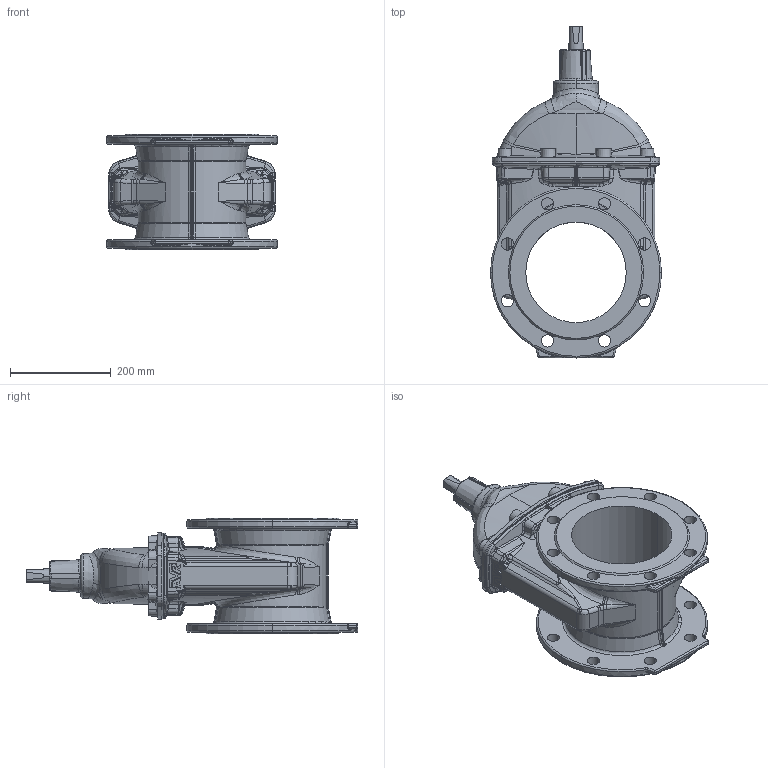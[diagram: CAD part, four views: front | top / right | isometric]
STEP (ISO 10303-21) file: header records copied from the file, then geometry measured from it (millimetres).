
FILE_DESCRIPTION (( 'STEP AP203' ), '1' );
FILE_NAME ('O_06_30_DN200_X0XXX99_REV01.step', '2021-12-20T09:05:52', ( '' ), ( '' ), 'SwSTEP 2.0', 'SolidWorks 2019', '' );
FILE_SCHEMA (( 'CONFIG_CONTROL_DESIGN' ));
Length unit declared in the file: millimetre
Products named in the file (1): O_06_30_DN200_X0XXX99_REV01
Bounding box: 340 x 660.06 x 230 mm (x, y, z)
Volume: 12041047.1 mm3; surface area: 801392.5 mm2
Topology: 1 solids, 1 shells, 1018 faces, 2480 edges, 1436 vertices
Faces by surface type: bspline 377, cylinder 278, plane 161, torus 92, cone 90, sphere 20
Entity records: 42188 total; most frequent: CARTESIAN_POINT 21441, ORIENTED_EDGE 4888, DIRECTION 3705, EDGE_CURVE 2444, AXIS2_PLACEMENT_3D 1533, VERTEX_POINT 1436, EDGE_LOOP 1060, FACE_OUTER_BOUND 1018
